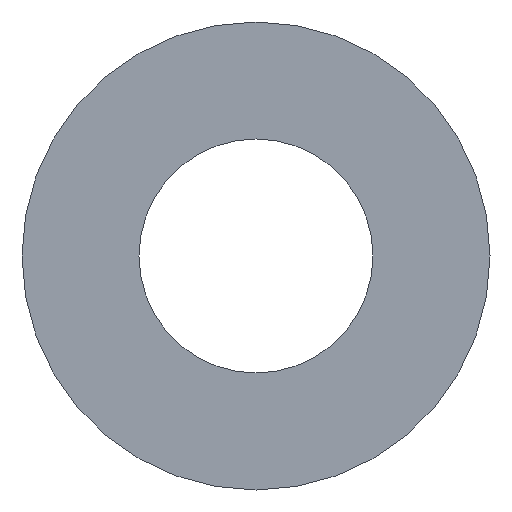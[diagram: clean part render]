
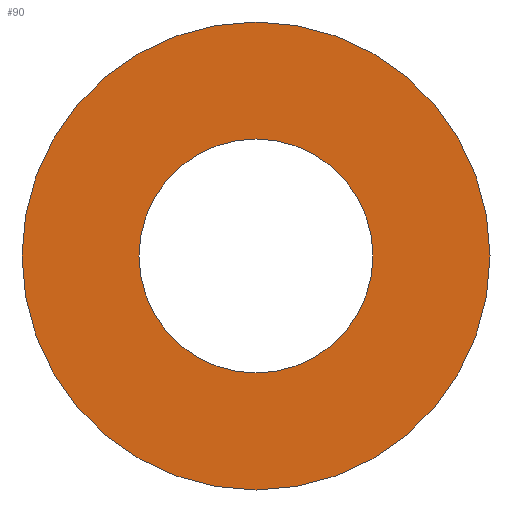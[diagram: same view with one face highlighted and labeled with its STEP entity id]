
A CAD part, front view. The second image highlights one B-rep face of the part: STEP entity #90.
In plain terms, the highlighted planar face has unit normal (0, -1, 0).
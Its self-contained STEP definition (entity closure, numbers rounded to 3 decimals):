
#4 = CARTESIAN_POINT ( 'NONE',  ( -20., 0., 0. ) ) ;
#6 = VERTEX_POINT ( 'NONE', #110 ) ;
#9 = CIRCLE ( 'NONE', #91, 20. ) ;
#12 = EDGE_CURVE ( 'NONE', #6, #6, #9, .T. ) ;
#17 = EDGE_LOOP ( 'NONE', ( #84 ) ) ;
#24 = CARTESIAN_POINT ( 'NONE',  ( 0., 0., 0. ) ) ;
#27 = DIRECTION ( 'NONE',  ( 0., 0., 1. ) ) ;
#31 = DIRECTION ( 'NONE',  ( 0., 1., 0. ) ) ;
#33 = ORIENTED_EDGE ( 'NONE', *, *, #79, .T. ) ;
#36 = CARTESIAN_POINT ( 'NONE',  ( 0., 0., 10. ) ) ;
#40 = FACE_OUTER_BOUND ( 'NONE', #17, .T. ) ;
#43 = EDGE_LOOP ( 'NONE', ( #33 ) ) ;
#46 = PLANE ( 'NONE',  #65 ) ;
#47 = DIRECTION ( 'NONE',  ( 0., 0., -1. ) ) ;
#62 = CIRCLE ( 'NONE', #112, 10. ) ;
#63 = DIRECTION ( 'NONE',  ( 0., -1., 0. ) ) ;
#65 = AXIS2_PLACEMENT_3D ( 'NONE', #4, #63, #47 ) ;
#76 = CARTESIAN_POINT ( 'NONE',  ( 0., 0., 0. ) ) ;
#79 = EDGE_CURVE ( 'NONE', #105, #105, #62, .T. ) ;
#80 = DIRECTION ( 'NONE',  ( 0., 0., 1. ) ) ;
#84 = ORIENTED_EDGE ( 'NONE', *, *, #12, .F. ) ;
#88 = FACE_BOUND ( 'NONE', #43, .T. ) ;
#90 = ADVANCED_FACE ( 'NONE', ( #88, #40 ), #46, .T. ) ;
#91 = AXIS2_PLACEMENT_3D ( 'NONE', #76, #117, #27 ) ;
#105 = VERTEX_POINT ( 'NONE', #36 ) ;
#110 = CARTESIAN_POINT ( 'NONE',  ( 0., 0., 20. ) ) ;
#112 = AXIS2_PLACEMENT_3D ( 'NONE', #24, #31, #80 ) ;
#117 = DIRECTION ( 'NONE',  ( 0., 1., 0. ) ) ;
